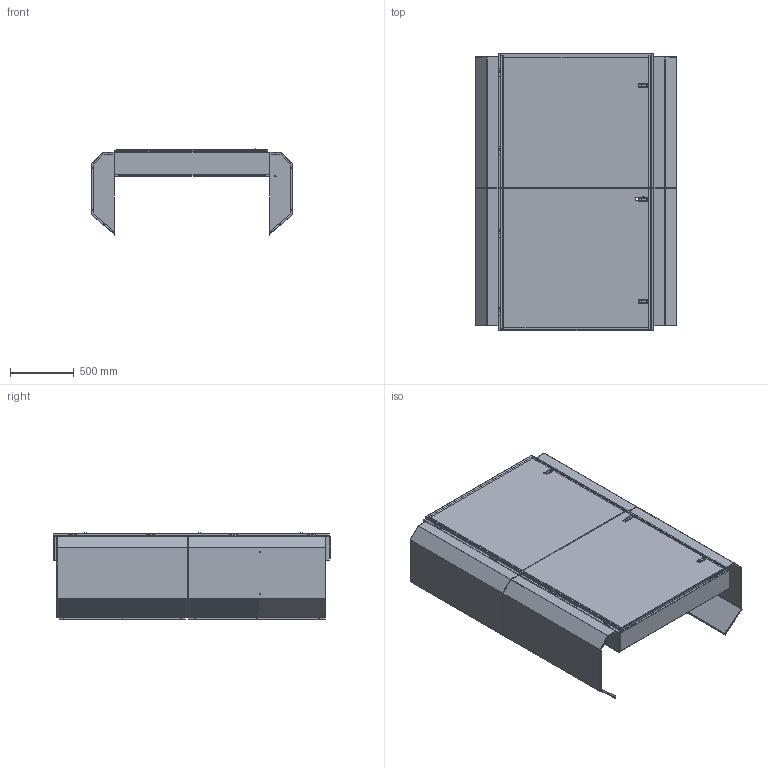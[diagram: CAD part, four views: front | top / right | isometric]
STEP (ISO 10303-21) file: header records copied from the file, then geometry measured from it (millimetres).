
FILE_DESCRIPTION (( 'STEP AP214' ), '1' );
FILE_NAME ('QRASP5.STEP', '2016-07-28T13:39:51', ( 'BMC' ), ( 'Bard Manufacturing Co., Inc.' ), 'SwSTEP 2.0', 'SolidWorks 2016', '' );
FILE_SCHEMA (( 'AUTOMOTIVE_DESIGN' ));
Length unit declared in the file: inch
Products named in the file (30): 553-473; 106-239; 5021-1447_uncompressed; 500-575; 152-473; 100-575; 553-474; 500-574; 5021-1448_uncompressed; 5400-005, male hinge; 1012-150; 100-574; 1171-048, non locking door latch; 100-577; NUT; 100-576; 1171-048f; 1171-048e; QRASP5; 1171-048d; 1171-048c; 1171-048b; 1171-048a; 5400-005 female hinge; 152-474; 100-579; 100-581; 100-580; 136-585; 126-383
Assembly tree (46 placements, depth 4):
  QRASP5
    100-576
    100-577
    500-574
      100-574
      5400-005, male hinge  x2
    500-575
      100-575
      5400-005, male hinge  x2
    106-239
    126-383
    100-580  x2
    100-581
    100-579
    553-474
      152-474
      5400-005 female hinge  x2
      1171-048, non locking door latch  x2
        1171-048a
        1171-048b
        1171-048c
        1171-048d
        1171-048e
        1171-048f
        NUT
      1012-150  x4
      5021-1448_uncompressed
    553-473
      152-473
      5021-1447_uncompressed
      5400-005 female hinge  x2
      1012-150  x4
      1171-048, non locking door latch
        1171-048a
        1171-048b
        1171-048c
        1171-048d
        1171-048e
        1171-048f
        NUT
    136-585  x2
Bounding box: 1570.82 x 2171.71 x 676.55 mm (x, y, z)
Surface area: 20676231.8 mm2 (no closed solid volume)
Topology: 0 solids, 53 shells, 6702 faces, 17501 edges, 10945 vertices
Faces by surface type: plane 4055, cone 1786, cylinder 696, bspline 148, sphere 11, torus 6
Entity records: 127232 total; most frequent: CARTESIAN_POINT 27458, ORIENTED_EDGE 20678, DIRECTION 19022, EDGE_CURVE 10339, VECTOR 8600, LINE 8600, VERTEX_POINT 6575, AXIS2_PLACEMENT_3D 5211
